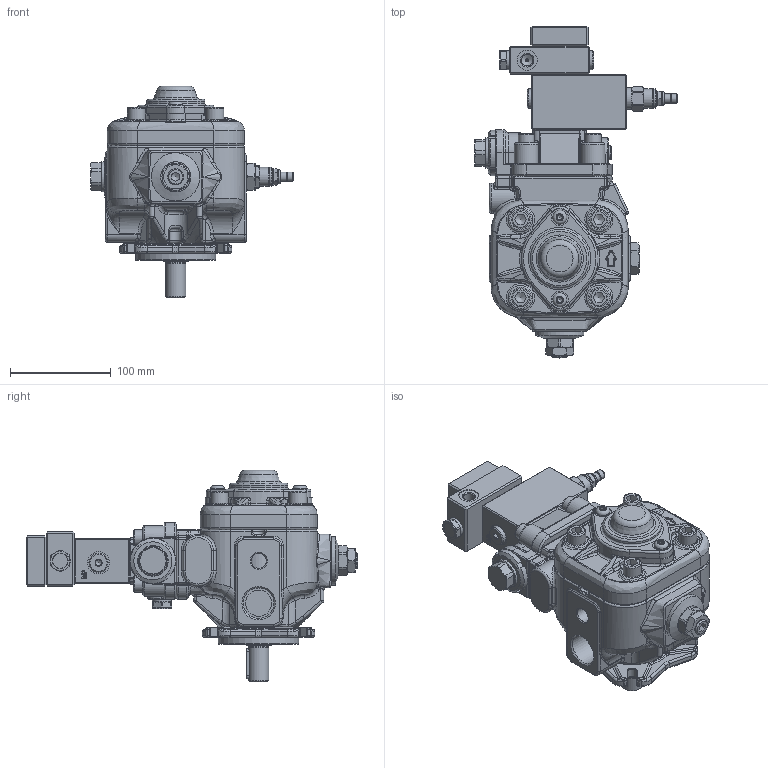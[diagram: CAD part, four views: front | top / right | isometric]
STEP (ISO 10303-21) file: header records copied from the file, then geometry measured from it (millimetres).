
FILE_DESCRIPTION(/* description */ (''),/* implementation_level */ '2;1');
FILE_NAME(/* name */ 'W:\Tecnico\Archivio\Berarma\Dimensioni Pompe\3D Export\Montaggio 3D semplificato\PLP-PHP 05\PHP05 FHRMA PCLS002.stp',/* time_stamp */ '2018-10-10T15:12:09+02:00',/* author */ ('marcop'),/* organization */ (''),/* preprocessor_version */ 'ST-DEVELOPER v17',/* originating_system */ 'Autodesk Inventor 2018',/* authorisation */ '');
FILE_SCHEMA (('AUTOMOTIVE_DESIGN { 1 0 10303 214 3 1 1 }'));
Products named in the file (1): PHP05_Shrinkwrap_1
Bounding box: 200.95 x 329.6 x 210 mm (x, y, z)
Volume: 2498598.4 mm3; surface area: 277083.3 mm2
Topology: 2 solids, 2 shells, 2523 faces, 6450 edges, 3970 vertices
Faces by surface type: plane 965, cylinder 507, bspline 446, torus 290, cone 279, sphere 36
Full cylindrical faces by diameter (mm): 1.7 x4, 2.5 x2, 3 x1, 4 x5, 5 x7, 6 x4, 6.5 x2, 7.2 x13, 7.671 x2, 8 x1, 8.5 x8, 9 x8, 9.347 x2, 9.5 x1, 11.445 x5, 12 x4, 13 x1, 13.487 x1, 13.5 x1, 13.767 x2, 14 x5, 14.5 x1, 14.63 x1, 14.95 x1, 15 x2, 15.5 x2, 16 x7, 16.376 x1, 16.5 x4, 17 x3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
Entity records: 94240 total; most frequent: CARTESIAN_POINT 33392, ORIENTED_EDGE 12730, DIRECTION 11705, EDGE_CURVE 6365, AXIS2_PLACEMENT_3D 4656, VERTEX_POINT 3970, EDGE_LOOP 2718, CIRCLE 2536
